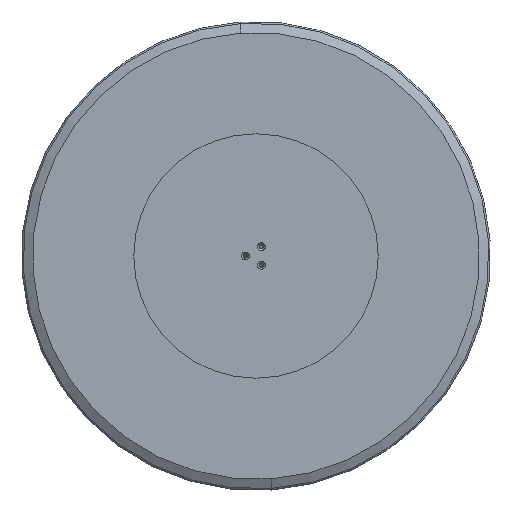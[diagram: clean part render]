
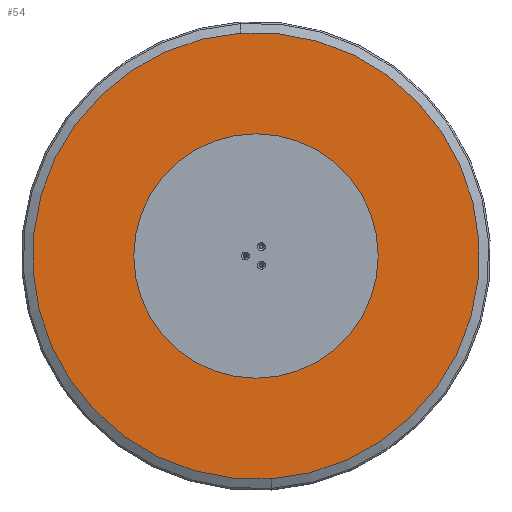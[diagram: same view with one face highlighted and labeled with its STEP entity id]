
A CAD part, front view. The second image highlights one B-rep face of the part: STEP entity #54.
In plain terms, the highlighted planar face has unit normal (0, -1, 0).
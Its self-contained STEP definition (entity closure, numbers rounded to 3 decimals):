
#22 = EDGE_CURVE ( 'NONE', #6399, #839, #3058, .T. ) ;
#29 = VERTEX_POINT ( 'NONE', #1857 ) ;
#54 = ADVANCED_FACE ( 'NONE', ( #1963, #1008, #2927, #4962 ), #3999, .T. ) ;
#252 = ORIENTED_EDGE ( 'NONE', *, *, #2274, .F. ) ;
#269 = VERTEX_POINT ( 'NONE', #6154 ) ;
#383 = AXIS2_PLACEMENT_3D ( 'NONE', #1874, #886, #4945 ) ;
#475 = ORIENTED_EDGE ( 'NONE', *, *, #3131, .T. ) ;
#839 = VERTEX_POINT ( 'NONE', #3372 ) ;
#851 = VERTEX_POINT ( 'NONE', #3401 ) ;
#886 = DIRECTION ( 'NONE',  ( 0., 1., 0. ) ) ;
#904 = CARTESIAN_POINT ( 'NONE',  ( 95., 0., -54.848 ) ) ;
#1008 = FACE_BOUND ( 'NONE', #2797, .T. ) ;
#1149 = EDGE_CURVE ( 'NONE', #269, #3757, #5718, .T. ) ;
#1234 = ORIENTED_EDGE ( 'NONE', *, *, #1789, .T. ) ;
#1297 = DIRECTION ( 'NONE',  ( 0., 0., 1. ) ) ;
#1309 = CARTESIAN_POINT ( 'NONE',  ( -95., 0., -54.848 ) ) ;
#1368 = CARTESIAN_POINT ( 'NONE',  ( 0., 0., 484.323 ) ) ;
#1464 = AXIS2_PLACEMENT_3D ( 'NONE', #904, #2994, #5561 ) ;
#1466 = DIRECTION ( 'NONE',  ( 0., 0., -1. ) ) ;
#1511 = AXIS2_PLACEMENT_3D ( 'NONE', #1309, #3327, #6261 ) ;
#1707 = CIRCLE ( 'NONE', #5753, 484.323 ) ;
#1789 = EDGE_CURVE ( 'NONE', #29, #851, #4019, .T. ) ;
#1849 = ORIENTED_EDGE ( 'NONE', *, *, #1149, .T. ) ;
#1857 = CARTESIAN_POINT ( 'NONE',  ( 0., 0., 106.297 ) ) ;
#1874 = CARTESIAN_POINT ( 'NONE',  ( 0., 0., 109.697 ) ) ;
#1963 = FACE_BOUND ( 'NONE', #2218, .T. ) ;
#2037 = CARTESIAN_POINT ( 'NONE',  ( 0., 0., 0. ) ) ;
#2218 = EDGE_LOOP ( 'NONE', ( #1849, #475 ) ) ;
#2274 = EDGE_CURVE ( 'NONE', #5026, #5787, #4207, .T. ) ;
#2599 = EDGE_CURVE ( 'NONE', #851, #29, #3232, .T. ) ;
#2695 = CARTESIAN_POINT ( 'NONE',  ( 95., 0., -51.448 ) ) ;
#2797 = EDGE_LOOP ( 'NONE', ( #5239, #6301 ) ) ;
#2927 = FACE_BOUND ( 'NONE', #4643, .T. ) ;
#2994 = DIRECTION ( 'NONE',  ( 0., 1., 0. ) ) ;
#3058 = CIRCLE ( 'NONE', #1464, 3.4 ) ;
#3102 = DIRECTION ( 'NONE',  ( 0., 1., 0. ) ) ;
#3131 = EDGE_CURVE ( 'NONE', #3757, #269, #4809, .T. ) ;
#3220 = CARTESIAN_POINT ( 'NONE',  ( -95., 0., -58.248 ) ) ;
#3232 = CIRCLE ( 'NONE', #383, 3.4 ) ;
#3327 = DIRECTION ( 'NONE',  ( 0., 1., 0. ) ) ;
#3372 = CARTESIAN_POINT ( 'NONE',  ( 95., 0., -58.248 ) ) ;
#3401 = CARTESIAN_POINT ( 'NONE',  ( 0., 0., 113.097 ) ) ;
#3497 = CARTESIAN_POINT ( 'NONE',  ( 0., 0., -484.323 ) ) ;
#3651 = CARTESIAN_POINT ( 'NONE',  ( 95., 0., -54.848 ) ) ;
#3652 = DIRECTION ( 'NONE',  ( 0., 0., 1. ) ) ;
#3688 = AXIS2_PLACEMENT_3D ( 'NONE', #5594, #6159, #3652 ) ;
#3757 = VERTEX_POINT ( 'NONE', #3220 ) ;
#3999 = PLANE ( 'NONE',  #5712 ) ;
#4019 = CIRCLE ( 'NONE', #3688, 3.4 ) ;
#4074 = EDGE_LOOP ( 'NONE', ( #5176, #252 ) ) ;
#4101 = DIRECTION ( 'NONE',  ( 0., 0., 1. ) ) ;
#4207 = CIRCLE ( 'NONE', #5372, 484.323 ) ;
#4276 = CARTESIAN_POINT ( 'NONE',  ( -95., 0., -54.848 ) ) ;
#4325 = CARTESIAN_POINT ( 'NONE',  ( 0., 0., 0. ) ) ;
#4393 = DIRECTION ( 'NONE',  ( 0., -1., 0. ) ) ;
#4643 = EDGE_LOOP ( 'NONE', ( #5816, #1234 ) ) ;
#4700 = DIRECTION ( 'NONE',  ( 0., 1., 0. ) ) ;
#4767 = AXIS2_PLACEMENT_3D ( 'NONE', #4276, #6237, #6175 ) ;
#4809 = CIRCLE ( 'NONE', #1511, 3.4 ) ;
#4945 = DIRECTION ( 'NONE',  ( 0., 0., 1. ) ) ;
#4962 = FACE_OUTER_BOUND ( 'NONE', #4074, .T. ) ;
#5012 = CIRCLE ( 'NONE', #5125, 3.4 ) ;
#5026 = VERTEX_POINT ( 'NONE', #3497 ) ;
#5125 = AXIS2_PLACEMENT_3D ( 'NONE', #3651, #4700, #6122 ) ;
#5176 = ORIENTED_EDGE ( 'NONE', *, *, #5451, .F. ) ;
#5239 = ORIENTED_EDGE ( 'NONE', *, *, #22, .T. ) ;
#5372 = AXIS2_PLACEMENT_3D ( 'NONE', #4325, #6349, #1297 ) ;
#5451 = EDGE_CURVE ( 'NONE', #5787, #5026, #1707, .T. ) ;
#5561 = DIRECTION ( 'NONE',  ( 0., 0., 1. ) ) ;
#5594 = CARTESIAN_POINT ( 'NONE',  ( 0., 0., 109.697 ) ) ;
#5712 = AXIS2_PLACEMENT_3D ( 'NONE', #6023, #4393, #1466 ) ;
#5718 = CIRCLE ( 'NONE', #4767, 3.4 ) ;
#5753 = AXIS2_PLACEMENT_3D ( 'NONE', #2037, #3102, #4101 ) ;
#5787 = VERTEX_POINT ( 'NONE', #1368 ) ;
#5816 = ORIENTED_EDGE ( 'NONE', *, *, #2599, .T. ) ;
#6023 = CARTESIAN_POINT ( 'NONE',  ( 0., 0., 0. ) ) ;
#6122 = DIRECTION ( 'NONE',  ( 0., 0., 1. ) ) ;
#6154 = CARTESIAN_POINT ( 'NONE',  ( -95., 0., -51.448 ) ) ;
#6159 = DIRECTION ( 'NONE',  ( 0., 1., 0. ) ) ;
#6175 = DIRECTION ( 'NONE',  ( 0., 0., 1. ) ) ;
#6231 = EDGE_CURVE ( 'NONE', #839, #6399, #5012, .T. ) ;
#6237 = DIRECTION ( 'NONE',  ( 0., 1., 0. ) ) ;
#6261 = DIRECTION ( 'NONE',  ( 0., 0., 1. ) ) ;
#6301 = ORIENTED_EDGE ( 'NONE', *, *, #6231, .T. ) ;
#6349 = DIRECTION ( 'NONE',  ( 0., 1., 0. ) ) ;
#6399 = VERTEX_POINT ( 'NONE', #2695 ) ;
